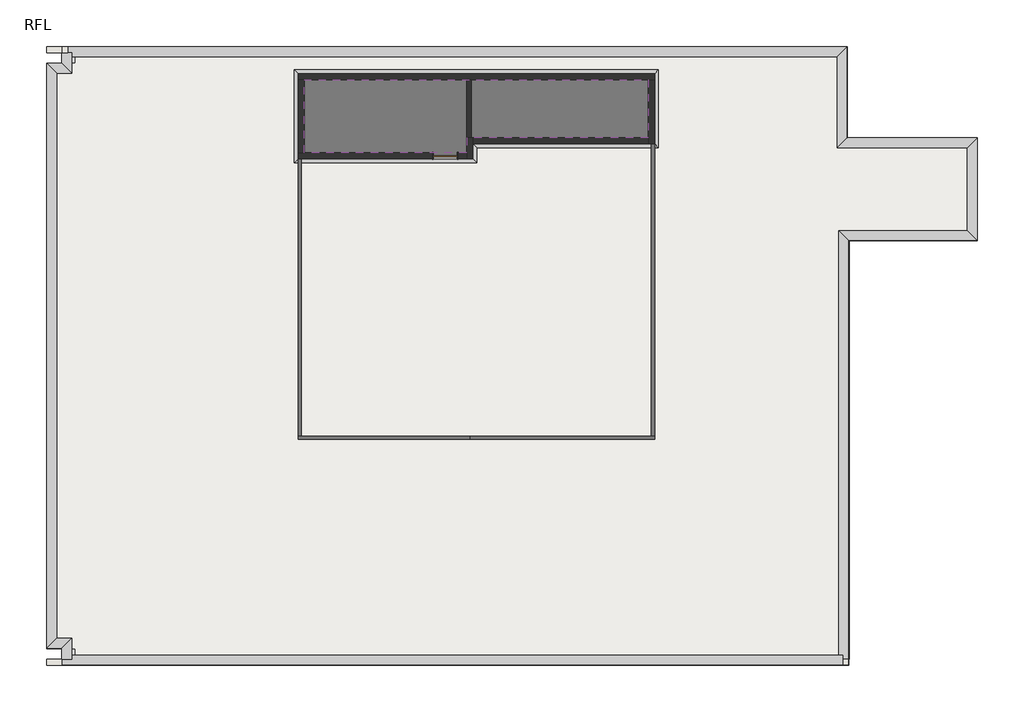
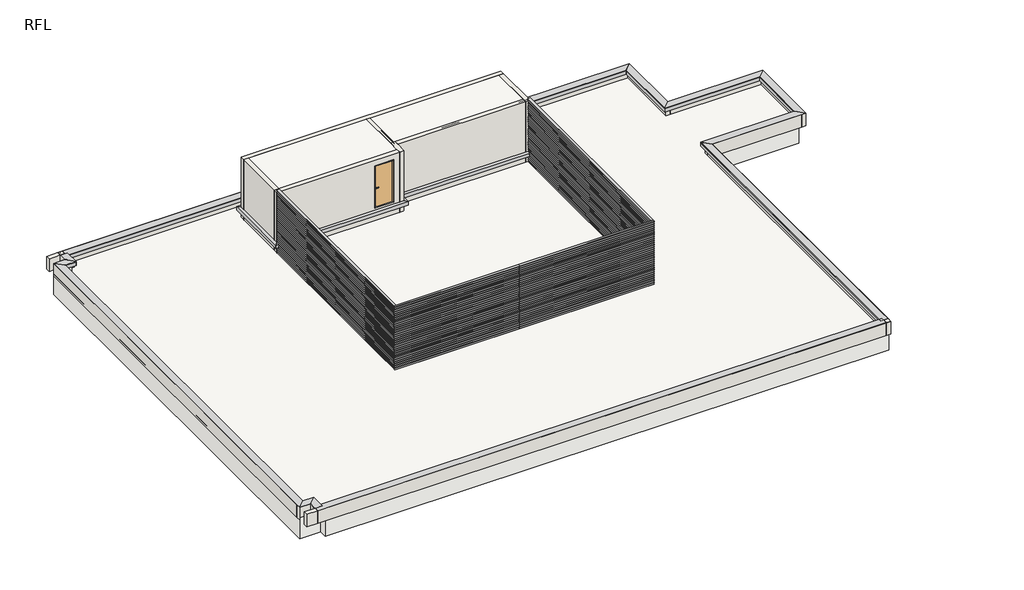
# One storey: 34 proxies, 21 walls, 2 slabs, 1 door.
"""IFC4 building model written with IfcOpenShell, lengths in millimetres."""

from ifc_helpers import new_model, si_unit, frame, origin, place, context, project, spatial, polyline, outline, extrude, faceted_brep, transform, mapped, element, save
from components import generic_models_eebe7cf6, generic_models_b61f9f31, w800h2000_a5e513ef

model = new_model("IFC4")

# Units and contexts
model_context = context("Model", 3, world=origin())
ifc_project = project(units=[si_unit("LENGTHUNIT", "METRE", prefix="MILLI")], contexts=[model_context])

# Site, building, storey
site = spatial("IfcSite", under=ifc_project)
building = spatial("IfcBuilding", under=site)
storey = spatial("IfcBuildingStorey", under=building, Name="RFL", Elevation=32600.0)

# Proxies
placement = place(None, origin())
element("IfcBuildingElementProxy", 1, Name="i_コア3 : i_コア", ObjectType="i_コア3 : i_コア", at=placement, inside=storey, context=model_context, shape_type="SweptSolid", body=[
    extrude(outline(polyline([(-15395.9784025, 15749.6868987), (-15395.9784025, 13149.6868987), (-20945.9784025, 13149.6868987), (-20945.9784025, 15749.6868987), (-15395.9784025, 15749.6868987)])), frame((0.0, 0.0, 32600.0), z_axis=(0.0, 0.0, 1.0), x_axis=(1.0, 0.0, 0.0)), (0.0, 0.0, 1.0), 3000.0),
])
element("IfcBuildingElementProxy", 2, Name="i_コア4 : i_コア", ObjectType="i_コア4 : i_コア", at=placement, inside=storey, context=model_context, shape_type="SweptSolid", body=[
    extrude(outline(polyline([(-9395.9784025, 15749.6868987), (-9395.9784025, 13649.6868987), (-15395.9784025, 13649.6868987), (-15395.9784025, 15749.6868987), (-9395.9784025, 15749.6868987)])), frame((0.0, 0.0, 32600.0), z_axis=(0.0, 0.0, 1.0), x_axis=(1.0, 0.0, 0.0)), (0.0, 0.0, 1.0), 3000.0),
])
element("IfcBuildingElementProxy", 3, Name="Reveals", at=placement, inside=storey, context=model_context, shape_type="Brep", body=[
    faceted_brep([(-3275.9784025, 16419.6868987, 33170.0), (-3275.9784025, 16419.6868987, 33200.0), (-2945.9784025, 16749.6868987, 33200.0), (-3275.9784025, 13419.6868987, 33170.0), (-2945.9784025, 13749.6868987, 33200.0), (-3275.9784025, 13419.6868987, 33200.0)], [[[0, 1, 2]], [[3, 4, 5]], [[1, 0, 3, 5]], [[2, 1, 5, 4]], [[0, 2, 4, 3]]]),
])
element("IfcBuildingElementProxy", 4, Name="Wall Sweeps", at=placement, inside=storey, context=model_context, shape_type="Brep", body=[
    faceted_brep([(-3275.9784025, 16419.6868987, 33010.0), (-3275.9784025, 16419.6868987, 33170.0), (-2945.9784025, 16749.6868987, 33200.0), (-3145.9784025, 16549.6868987, 33010.0), (-3275.9784025, 13419.6868987, 33010.0), (-3145.9784025, 13549.6868987, 33010.0), (-2945.9784025, 13749.6868987, 33200.0), (-3275.9784025, 13419.6868987, 33170.0)], [[[0, 1, 2, 3]], [[4, 5, 6, 7]], [[1, 0, 4, 7]], [[2, 1, 7, 6]], [[3, 2, 6, 5]], [[0, 3, 5, 4]]]),
])
element("IfcBuildingElementProxy", 5, Name="Reveals", at=placement, inside=storey, context=model_context, shape_type="Brep", body=[
    faceted_brep([(-3275.9784025, 13419.6868987, 33170.0), (-3275.9784025, 13419.6868987, 33200.0), (-2945.9784025, 13749.6868987, 33200.0), (1024.0215975, 13419.6868987, 33170.0), (1354.0215975, 13749.6868987, 33200.0), (1024.0215975, 13419.6868987, 33200.0)], [[[0, 1, 2]], [[3, 4, 5]], [[1, 0, 3, 5]], [[2, 1, 5, 4]], [[0, 2, 4, 3]]]),
])
element("IfcBuildingElementProxy", 6, Name="Wall Sweeps", at=placement, inside=storey, context=model_context, shape_type="Brep", body=[
    faceted_brep([(-3275.9784025, 13419.6868987, 33010.0), (-3275.9784025, 13419.6868987, 33170.0), (-2945.9784025, 13749.6868987, 33200.0), (-3145.9784025, 13549.6868987, 33010.0), (1024.0215975, 13419.6868987, 33010.0), (1154.0215975, 13549.6868987, 33010.0), (1354.0215975, 13749.6868987, 33200.0), (1024.0215975, 13419.6868987, 33170.0)], [[[0, 1, 2, 3]], [[4, 5, 6, 7]], [[1, 0, 4, 7]], [[2, 1, 7, 6]], [[3, 2, 6, 5]], [[0, 3, 5, 4]]]),
])
element("IfcBuildingElementProxy", 7, Name="Reveals", at=placement, inside=storey, context=model_context, shape_type="Brep", body=[
    faceted_brep([(1024.0215975, 13419.6868987, 33170.0), (1024.0215975, 13419.6868987, 33200.0), (1354.0215975, 13749.6868987, 33200.0), (1024.0215975, 10679.6868987, 33170.0), (1354.0215975, 10349.6868987, 33200.0), (1024.0215975, 10679.6868987, 33200.0)], [[[0, 1, 2]], [[3, 4, 5]], [[1, 0, 3, 5]], [[2, 1, 5, 4]], [[0, 2, 4, 3]]]),
])
element("IfcBuildingElementProxy", 8, Name="Wall Sweeps", at=placement, inside=storey, context=model_context, shape_type="Brep", body=[
    faceted_brep([(1024.0215975, 13419.6868987, 33010.0), (1024.0215975, 13419.6868987, 33170.0), (1354.0215975, 13749.6868987, 33200.0), (1154.0215975, 13549.6868987, 33010.0), (1024.0215975, 10679.6868987, 33010.0), (1154.0215975, 10549.6868987, 33010.0), (1354.0215975, 10349.6868987, 33200.0), (1024.0215975, 10679.6868987, 33170.0)], [[[0, 1, 2, 3]], [[4, 5, 6, 7]], [[1, 0, 4, 7]], [[2, 1, 7, 6]], [[3, 2, 6, 5]], [[0, 3, 5, 4]]]),
])
element("IfcBuildingElementProxy", 9, Name="Reveals", at=placement, inside=storey, context=model_context, shape_type="Brep", body=[
    faceted_brep([(1024.0215975, 10679.6868987, 33170.0), (1024.0215975, 10679.6868987, 33200.0), (1354.0215975, 10349.6868987, 33200.0), (-3225.9784025, 10679.6868987, 33170.0), (-2895.9784025, 10349.6868987, 33200.0), (-3225.9784025, 10679.6868987, 33200.0)], [[[0, 1, 2]], [[3, 4, 5]], [[1, 0, 3, 5]], [[2, 1, 5, 4]], [[0, 2, 4, 3]]]),
])
element("IfcBuildingElementProxy", 10, Name="Wall Sweeps", at=placement, inside=storey, context=model_context, shape_type="Brep", body=[
    faceted_brep([(1024.0215975, 10679.6868987, 33010.0), (1024.0215975, 10679.6868987, 33170.0), (1354.0215975, 10349.6868987, 33200.0), (1154.0215975, 10549.6868987, 33010.0), (-3225.9784025, 10679.6868987, 33010.0), (-3095.9784025, 10549.6868987, 33010.0), (-2895.9784025, 10349.6868987, 33200.0), (-3225.9784025, 10679.6868987, 33170.0)], [[[0, 1, 2, 3]], [[4, 5, 6, 7]], [[1, 0, 4, 7]], [[2, 1, 7, 6]], [[3, 2, 6, 5]], [[0, 3, 5, 4]]]),
])
element("IfcBuildingElementProxy", 11, Name="Reveals", at=placement, inside=storey, context=model_context, shape_type="Brep", body=[
    faceted_brep([(-3225.9784025, 10679.6868987, 33170.0), (-3225.9784025, 10679.6868987, 33200.0), (-2895.9784025, 10349.6868987, 33200.0), (-3225.9784025, -3450.3131013, 33170.0), (-2895.9784025, -3450.3131013, 33200.0), (-3225.9784025, -3450.3131013, 33200.0)], [[[0, 1, 2]], [[3, 4, 5]], [[1, 0, 3, 5]], [[2, 1, 5, 4]], [[0, 2, 4, 3]]]),
])
element("IfcBuildingElementProxy", 12, Name="Wall Sweeps", at=placement, inside=storey, context=model_context, shape_type="Brep", body=[
    faceted_brep([(-3225.9784025, 10679.6868987, 33010.0), (-3225.9784025, 10679.6868987, 33170.0), (-2895.9784025, 10349.6868987, 33200.0), (-3095.9784025, 10549.6868987, 33010.0), (-3225.9784025, -3320.3131013, 33010.0), (-3095.9784025, -3450.3131013, 33010.0), (-2895.9784025, -3650.3131013, 33200.0), (-3225.9784025, -3320.3131013, 33170.0), (-2895.9784025, -3450.3131013, 33200.0)], [[[0, 1, 2, 3]], [[4, 5, 6, 7]], [[1, 0, 4, 7]], [[2, 1, 7, 6, 8]], [[3, 2, 8, 6, 5]], [[0, 3, 5, 4]]]),
])
element("IfcBuildingElementProxy", 13, Name="Reveals", at=placement, inside=storey, context=model_context, shape_type="SweptSolid", body=[
    extrude(outline(polyline([(-3320.3131013, 33170.0), (-3650.3131013, 33200.0), (-3320.3131013, 33200.0), (-3320.3131013, 33170.0)])), frame((-28845.9784025, 0.0, 0.0), z_axis=(1.0, 0.0, 0.0), x_axis=(0.0, 1.0, 0.0)), (0.0, 0.0, 1.0), 25750.0),
])
element("IfcBuildingElementProxy", 14, Name="Wall Sweeps", at=placement, inside=storey, context=model_context, shape_type="Brep", body=[
    faceted_brep([(-3225.9784025, -3320.3131013, 33010.0), (-3225.9784025, -3320.3131013, 33170.0), (-2895.9784025, -3650.3131013, 33200.0), (-3095.9784025, -3450.3131013, 33010.0), (-28515.9784025, -3320.3131013, 33010.0), (-28645.9784025, -3450.3131013, 33010.0), (-28845.9784025, -3650.3131013, 33200.0), (-28515.9784025, -3320.3131013, 33170.0)], [[[0, 1, 2, 3]], [[4, 5, 6, 7]], [[1, 0, 4, 7]], [[2, 1, 7, 6]], [[3, 2, 6, 5]], [[0, 3, 5, 4]]]),
])
element("IfcBuildingElementProxy", 15, Name="Reveals", at=placement, inside=storey, context=model_context, shape_type="Brep", body=[
    faceted_brep([(-28515.9784025, -3450.3131013, 33170.0), (-28515.9784025, -3450.3131013, 33200.0), (-28845.9784025, -3450.3131013, 33200.0), (-28515.9784025, -2765.3131013, 33170.0), (-28845.9784025, -3095.3131013, 33200.0), (-28515.9784025, -2765.3131013, 33200.0)], [[[0, 1, 2]], [[3, 4, 5]], [[1, 0, 3, 5]], [[2, 1, 5, 4]], [[0, 2, 4, 3]]]),
])
element("IfcBuildingElementProxy", 16, Name="Wall Sweeps", at=placement, inside=storey, context=model_context, shape_type="Brep", body=[
    faceted_brep([(-28515.9784025, -3320.3131013, 33010.0), (-28515.9784025, -3320.3131013, 33170.0), (-28845.9784025, -3650.3131013, 33200.0), (-28645.9784025, -3450.3131013, 33010.0), (-28515.9784025, -2765.3131013, 33010.0), (-28645.9784025, -2895.3131013, 33010.0), (-28845.9784025, -3095.3131013, 33200.0), (-28515.9784025, -2765.3131013, 33170.0)], [[[0, 1, 2, 3]], [[4, 5, 6, 7]], [[1, 0, 4, 7]], [[2, 1, 7, 6]], [[3, 2, 6, 5]], [[0, 3, 5, 4]]]),
])
element("IfcBuildingElementProxy", 17, Name="Reveals", at=placement, inside=storey, context=model_context, shape_type="Brep", body=[
    faceted_brep([(-28515.9784025, -2765.3131013, 33170.0), (-28515.9784025, -2765.3131013, 33200.0), (-28845.9784025, -3095.3131013, 33200.0), (-29015.9784025, -2765.3131013, 33170.0), (-29345.9784025, -3095.3131013, 33200.0), (-29015.9784025, -2765.3131013, 33200.0)], [[[0, 1, 2]], [[3, 4, 5]], [[1, 0, 3, 5]], [[2, 1, 5, 4]], [[0, 2, 4, 3]]]),
])
element("IfcBuildingElementProxy", 18, Name="Wall Sweeps", at=placement, inside=storey, context=model_context, shape_type="Brep", body=[
    faceted_brep([(-28515.9784025, -2765.3131013, 33010.0), (-28515.9784025, -2765.3131013, 33170.0), (-28845.9784025, -3095.3131013, 33200.0), (-28645.9784025, -2895.3131013, 33010.0), (-29015.9784025, -2765.3131013, 33010.0), (-29145.9784025, -2895.3131013, 33010.0), (-29345.9784025, -3095.3131013, 33200.0), (-29015.9784025, -2765.3131013, 33170.0)], [[[0, 1, 2, 3]], [[4, 5, 6, 7]], [[1, 0, 4, 7]], [[2, 1, 7, 6]], [[3, 2, 6, 5]], [[0, 3, 5, 4]]]),
])
element("IfcBuildingElementProxy", 19, Name="Reveals", at=placement, inside=storey, context=model_context, shape_type="Brep", body=[
    faceted_brep([(-29015.9784025, -2765.3131013, 33170.0), (-29015.9784025, -2765.3131013, 33200.0), (-29345.9784025, -3095.3131013, 33200.0), (-29015.9784025, 15869.6868987, 33170.0), (-29345.9784025, 16199.6868987, 33200.0), (-29015.9784025, 15869.6868987, 33200.0)], [[[0, 1, 2]], [[3, 4, 5]], [[1, 0, 3, 5]], [[2, 1, 5, 4]], [[0, 2, 4, 3]]]),
])
element("IfcBuildingElementProxy", 20, Name="Wall Sweeps", at=placement, inside=storey, context=model_context, shape_type="Brep", body=[
    faceted_brep([(-29015.9784025, -2765.3131013, 33010.0), (-29015.9784025, -2765.3131013, 33170.0), (-29345.9784025, -3095.3131013, 33200.0), (-29145.9784025, -2895.3131013, 33010.0), (-29015.9784025, 15869.6868987, 33010.0), (-29145.9784025, 15999.6868987, 33010.0), (-29345.9784025, 16199.6868987, 33200.0), (-29015.9784025, 15869.6868987, 33170.0)], [[[0, 1, 2, 3]], [[4, 5, 6, 7]], [[1, 0, 4, 7]], [[2, 1, 7, 6]], [[3, 2, 6, 5]], [[0, 3, 5, 4]]]),
])
element("IfcBuildingElementProxy", 21, Name="Reveals", at=placement, inside=storey, context=model_context, shape_type="Brep", body=[
    faceted_brep([(-29015.9784025, 15869.6868987, 33170.0), (-29015.9784025, 15869.6868987, 33200.0), (-29345.9784025, 16199.6868987, 33200.0), (-28515.9784025, 15869.6868987, 33170.0), (-28845.9784025, 16199.6868987, 33200.0), (-28515.9784025, 15869.6868987, 33200.0)], [[[0, 1, 2]], [[3, 4, 5]], [[1, 0, 3, 5]], [[2, 1, 5, 4]], [[0, 2, 4, 3]]]),
])
element("IfcBuildingElementProxy", 22, Name="Wall Sweeps", at=placement, inside=storey, context=model_context, shape_type="Brep", body=[
    faceted_brep([(-29015.9784025, 15869.6868987, 33010.0), (-29015.9784025, 15869.6868987, 33170.0), (-29345.9784025, 16199.6868987, 33200.0), (-29145.9784025, 15999.6868987, 33010.0), (-28515.9784025, 15869.6868987, 33010.0), (-28645.9784025, 15999.6868987, 33010.0), (-28845.9784025, 16199.6868987, 33200.0), (-28515.9784025, 15869.6868987, 33170.0)], [[[0, 1, 2, 3]], [[4, 5, 6, 7]], [[1, 0, 4, 7]], [[2, 1, 7, 6]], [[3, 2, 6, 5]], [[0, 3, 5, 4]]]),
])
element("IfcBuildingElementProxy", 23, Name="Reveals", at=placement, inside=storey, context=model_context, shape_type="Brep", body=[
    faceted_brep([(-28515.9784025, 15869.6868987, 33170.0), (-28515.9784025, 15869.6868987, 33200.0), (-28845.9784025, 16199.6868987, 33200.0), (-28515.9784025, 16549.6868987, 33170.0), (-28845.9784025, 16549.6868987, 33200.0), (-28515.9784025, 16549.6868987, 33200.0)], [[[0, 1, 2]], [[3, 4, 5]], [[1, 0, 3, 5]], [[2, 1, 5, 4]], [[0, 2, 4, 3]]]),
])
element("IfcBuildingElementProxy", 24, Name="Wall Sweeps", at=placement, inside=storey, context=model_context, shape_type="Brep", body=[
    faceted_brep([(-28515.9784025, 15869.6868987, 33010.0), (-28515.9784025, 15869.6868987, 33170.0), (-28845.9784025, 16199.6868987, 33200.0), (-28645.9784025, 15999.6868987, 33010.0), (-28515.9784025, 16419.6868987, 33010.0), (-28645.9784025, 16549.6868987, 33010.0), (-28845.9784025, 16749.6868987, 33200.0), (-28515.9784025, 16419.6868987, 33170.0), (-28845.9784025, 16549.6868987, 33200.0)], [[[0, 1, 2, 3]], [[4, 5, 6, 7]], [[1, 0, 4, 7]], [[2, 1, 7, 6, 8]], [[3, 2, 8, 6, 5]], [[0, 3, 5, 4]]]),
])
element("IfcBuildingElementProxy", 25, Name="Reveals", at=placement, inside=storey, context=model_context, shape_type="Brep", body=[
    faceted_brep([(-28645.9784025, 16419.6868987, 33170.0), (-28645.9784025, 16419.6868987, 33200.0), (-28645.9784025, 16749.6868987, 33200.0), (-3275.9784025, 16419.6868987, 33170.0), (-2945.9784025, 16749.6868987, 33200.0), (-3275.9784025, 16419.6868987, 33200.0)], [[[0, 1, 2]], [[3, 4, 5]], [[1, 0, 3, 5]], [[2, 1, 5, 4]], [[0, 2, 4, 3]]]),
])
element("IfcBuildingElementProxy", 26, Name="Wall Sweeps", at=placement, inside=storey, context=model_context, shape_type="Brep", body=[
    faceted_brep([(-28515.9784025, 16419.6868987, 33010.0), (-28515.9784025, 16419.6868987, 33170.0), (-28845.9784025, 16749.6868987, 33200.0), (-28645.9784025, 16549.6868987, 33010.0), (-3275.9784025, 16419.6868987, 33010.0), (-3145.9784025, 16549.6868987, 33010.0), (-2945.9784025, 16749.6868987, 33200.0), (-3275.9784025, 16419.6868987, 33170.0)], [[[0, 1, 2, 3]], [[4, 5, 6, 7]], [[1, 0, 4, 7]], [[2, 1, 7, 6]], [[3, 2, 6, 5]], [[0, 3, 5, 4]]]),
])
element("IfcBuildingElementProxy", 27, Name="Wall Sweeps", at=placement, inside=storey, context=model_context, shape_type="Brep", body=[
    faceted_brep([(-21175.9784025, 15979.6868987, 33025.0), (-21045.9784025, 15849.6868987, 33025.0), (-21045.9784025, 15849.6868987, 33200.0), (-21175.9784025, 15979.6868987, 33185.0), (-9165.9784025, 15979.6868987, 33025.0), (-9165.9784025, 15979.6868987, 33185.0), (-9295.9784025, 15849.6868987, 33200.0), (-9295.9784025, 15849.6868987, 33025.0)], [[[0, 1, 2, 3]], [[4, 5, 6, 7]], [[0, 3, 5, 4]], [[3, 2, 6, 5]], [[2, 1, 7, 6]], [[1, 0, 4, 7]]]),
])
element("IfcBuildingElementProxy", 28, Name="Wall Sweeps", at=placement, inside=storey, context=model_context, shape_type="Brep", body=[
    faceted_brep([(-9165.9784025, 15979.6868987, 33025.0), (-9295.9784025, 15849.6868987, 33025.0), (-9295.9784025, 15849.6868987, 33200.0), (-9165.9784025, 15979.6868987, 33185.0), (-9165.9784025, 13419.6868987, 33025.0), (-9165.9784025, 13419.6868987, 33185.0), (-9295.9784025, 13549.6868987, 33200.0), (-9295.9784025, 13549.6868987, 33025.0)], [[[0, 1, 2, 3]], [[4, 5, 6, 7]], [[0, 3, 5, 4]], [[3, 2, 6, 5]], [[2, 1, 7, 6]], [[1, 0, 4, 7]]]),
])
element("IfcBuildingElementProxy", 29, Name="Wall Sweeps", at=placement, inside=storey, context=model_context, shape_type="Brep", body=[
    faceted_brep([(-9165.9784025, 13419.6868987, 33025.0), (-9295.9784025, 13549.6868987, 33025.0), (-9295.9784025, 13549.6868987, 33200.0), (-9165.9784025, 13419.6868987, 33185.0), (-15165.9784025, 13419.6868987, 33025.0), (-15165.9784025, 13419.6868987, 33185.0), (-15295.9784025, 13549.6868987, 33200.0), (-15295.9784025, 13549.6868987, 33025.0)], [[[0, 1, 2, 3]], [[4, 5, 6, 7]], [[0, 3, 5, 4]], [[3, 2, 6, 5]], [[2, 1, 7, 6]], [[1, 0, 4, 7]]]),
])
element("IfcBuildingElementProxy", 30, Name="Wall Sweeps", at=placement, inside=storey, context=model_context, shape_type="Brep", body=[
    faceted_brep([(-15165.9784025, 13419.6868987, 33025.0), (-15295.9784025, 13549.6868987, 33025.0), (-15295.9784025, 13549.6868987, 33200.0), (-15165.9784025, 13419.6868987, 33185.0), (-15165.9784025, 12919.6868987, 33025.0), (-15165.9784025, 12919.6868987, 33185.0), (-15295.9784025, 13049.6868987, 33200.0), (-15295.9784025, 13049.6868987, 33025.0)], [[[0, 1, 2, 3]], [[4, 5, 6, 7]], [[0, 3, 5, 4]], [[3, 2, 6, 5]], [[2, 1, 7, 6]], [[1, 0, 4, 7]]]),
])
element("IfcBuildingElementProxy", 31, Name="Wall Sweeps", at=placement, inside=storey, context=model_context, shape_type="Brep", body=[
    faceted_brep([(-15165.9784025, 12919.6868987, 33025.0), (-15295.9784025, 13049.6868987, 33025.0), (-15295.9784025, 13049.6868987, 33200.0), (-15165.9784025, 12919.6868987, 33185.0), (-21175.9784025, 12919.6868987, 33025.0), (-21175.9784025, 12919.6868987, 33185.0), (-21045.9784025, 13049.6868987, 33200.0), (-21045.9784025, 13049.6868987, 33025.0)], [[[0, 1, 2, 3]], [[4, 5, 6, 7]], [[0, 3, 5, 4]], [[3, 2, 6, 5]], [[2, 1, 7, 6]], [[1, 0, 4, 7]]]),
])
element("IfcBuildingElementProxy", 32, Name="Wall Sweeps", at=placement, inside=storey, context=model_context, shape_type="Brep", body=[
    faceted_brep([(-21175.9784025, 12919.6868987, 33025.0), (-21045.9784025, 13049.6868987, 33025.0), (-21045.9784025, 13049.6868987, 33200.0), (-21175.9784025, 12919.6868987, 33185.0), (-21175.9784025, 15979.6868987, 33025.0), (-21175.9784025, 15979.6868987, 33185.0), (-21045.9784025, 15849.6868987, 33200.0), (-21045.9784025, 15849.6868987, 33025.0)], [[[0, 1, 2, 3]], [[4, 5, 6, 7]], [[0, 3, 5, 4]], [[3, 2, 6, 5]], [[2, 1, 7, 6]], [[1, 0, 4, 7]]]),
])
generic_models_shape = generic_models_eebe7cf6(model_context)
element("IfcBuildingElementProxy", 33, Name="水平ルーバー（Ｌ型） : h30d100@100", ObjectType="水平ルーバー（Ｌ型） : h30d100@100", at=placement, inside=storey, context=model_context, shape_type="MappedRepresentation", body=[
    mapped(generic_models_shape, transform((-9295.9784025, 4099.6868987, 32700.0), x_axis=(0.0, 1.0000000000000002, 0.0), y_axis=(-1.0000000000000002, 0.0, 0.0), z_axis=(0.0, 0.0, 1.0))),
])
generic_models_2_shape = generic_models_b61f9f31(model_context)
element("IfcBuildingElementProxy", 34, Name="水平ルーバー（Ｌ型） : h30d100@100", ObjectType="水平ルーバー（Ｌ型） : h30d100@100", at=placement, inside=storey, context=model_context, shape_type="MappedRepresentation", body=[
    mapped(generic_models_2_shape, transform((-21045.9784025, 4099.6868987, 32700.0), x_axis=(0.0, 1.0000000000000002, 0.0), y_axis=(-1.0000000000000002, 0.0, 0.0), z_axis=(0.0, 0.0, 1.0))),
])

# Door
w800h2000_shape = w800h2000_a5e513ef(model_context)
element("IfcDoor", 35, ObjectType="片開き戸 : w800h2000", at=placement, inside=storey, context=model_context, shape_type="MappedRepresentation", body=[
    mapped(w800h2000_shape, transform((-16195.9784025, 13149.6868987, 33300.0), x_axis=(1.0, 0.0, 0.0), y_axis=(0.0, 1.0, 0.0), z_axis=(0.0, 0.0, 1.0))),
])

# Slabs
element("IfcSlab", 36, ObjectType="企画1000", at=placement, inside=storey, context=model_context, shape_type="SweptSolid", body=[
    extrude(outline(polyline([(-3145.9784025, 16549.6868987), (-3145.9784025, 13549.6868987), (1154.0215975, 13549.6868987), (1154.0215975, 10549.6868987), (-2870.9784025, 10549.6868987), (-2870.9784025, -3450.3131013), (-28395.9784025, -3450.3131013), (-28395.9784025, -3105.3131013), (-29345.9784025, -3105.3131013), (-29345.9784025, 16194.6868987), (-28395.9784025, 16194.6868987), (-28395.9784025, 16549.6868987), (-3145.9784025, 16549.6868987)])), frame((0.0, 0.0, 31700.0), z_axis=(0.0, 0.0, 1.0), x_axis=(1.0, 0.0, 0.0)), (0.0, 0.0, 1.0), 1000.0),
])
element("IfcSlab", 37, ObjectType="RC150", at=placement, inside=storey, context=model_context, shape_type="SweptSolid", body=[
    extrude(outline(polyline([(-9495.9784025, 15649.6868987), (-9495.9784025, 13749.6868987), (-15495.9784025, 13749.6868987), (-15495.9784025, 13249.6868987), (-20845.9784025, 13249.6868987), (-20845.9784025, 15649.6868987), (-9495.9784025, 15649.6868987)])), frame((0.0, 0.0, 35450.0), z_axis=(0.0, 0.0, 1.0), x_axis=(1.0, 0.0, 0.0)), (0.0, 0.0, 1.0), 150.0),
])

# Walls
element("IfcWall", 38, ObjectType="パラペット200 アゴ+立上", at=placement, inside=storey, context=model_context, shape_type="Brep", body=[
    faceted_brep([(-21045.9784025, 15649.6868987, 32600.0), (-20845.9784025, 15649.6868987, 32600.0), (-15495.9784025, 15649.6868987, 32600.0), (-15345.9784025, 15649.6868987, 32600.0), (-9495.9784025, 15649.6868987, 32600.0), (-9295.9784025, 15649.6868987, 32600.0), (-9295.9784025, 15649.6868987, 33025.0), (-9295.9784025, 15649.6868987, 33200.0), (-9295.9784025, 15649.6868987, 35600.0), (-9495.9784025, 15649.6868987, 35600.0), (-15345.9784025, 15649.6868987, 35600.0), (-15495.9784025, 15649.6868987, 35600.0), (-20845.9784025, 15649.6868987, 35600.0), (-21045.9784025, 15649.6868987, 35600.0), (-21045.9784025, 15649.6868987, 33200.0), (-21045.9784025, 15649.6868987, 33025.0), (-9295.9784025, 15849.6868987, 32600.0), (-21045.9784025, 15849.6868987, 32600.0), (-21045.9784025, 15849.6868987, 33025.0), (-21045.9784025, 15849.6868987, 33200.0), (-21045.9784025, 15849.6868987, 35600.0), (-9295.9784025, 15849.6868987, 35600.0), (-9295.9784025, 15849.6868987, 33200.0), (-9295.9784025, 15849.6868987, 33025.0)], [[[0, 1, 2, 3, 4, 5, 6, 7, 8, 9, 10, 11, 12, 13, 14, 15]], [[16, 17, 18, 19, 20, 21, 22, 23]], [[5, 4, 3, 2, 1, 0, 17, 16]], [[13, 12, 11, 10, 9, 8, 21, 20]], [[5, 16, 23, 22, 21, 8, 7, 6]], [[13, 20, 19, 18, 17, 0, 15, 14]]]),
])
element("IfcWall", 39, ObjectType="パラペット200 アゴ+立上", at=placement, inside=storey, context=model_context, shape_type="Brep", body=[
    faceted_brep([(-9495.9784025, 15649.6868987, 32600.0), (-9495.9784025, 13749.6868987, 32600.0), (-9495.9784025, 13549.6868987, 32600.0), (-9495.9784025, 13549.6868987, 33025.0), (-9495.9784025, 13549.6868987, 33200.0), (-9495.9784025, 13549.6868987, 35600.0), (-9495.9784025, 13749.6868987, 35600.0), (-9495.9784025, 15649.6868987, 35600.0), (-9295.9784025, 13549.6868987, 32600.0), (-9295.9784025, 15649.6868987, 32600.0), (-9295.9784025, 15649.6868987, 33025.0), (-9295.9784025, 15649.6868987, 33200.0), (-9295.9784025, 15649.6868987, 35600.0), (-9295.9784025, 13549.6868987, 35600.0), (-9295.9784025, 13549.6868987, 33200.0), (-9295.9784025, 13549.6868987, 33025.0)], [[[0, 1, 2, 3, 4, 5, 6, 7]], [[8, 9, 10, 11, 12, 13, 14, 15]], [[2, 1, 0, 9, 8]], [[7, 6, 5, 13, 12]], [[0, 7, 12, 11, 10, 9]], [[2, 8, 15, 14, 13, 5, 4, 3]]]),
])
element("IfcWall", 40, ObjectType="パラペット200 アゴ+立上", at=placement, inside=storey, context=model_context, shape_type="Brep", body=[
    faceted_brep([(-9495.9784025, 13749.6868987, 32600.0), (-15295.9784025, 13749.6868987, 32600.0), (-15295.9784025, 13749.6868987, 35600.0), (-9495.9784025, 13749.6868987, 35600.0), (-15295.9784025, 13549.6868987, 32600.0), (-9495.9784025, 13549.6868987, 32600.0), (-9495.9784025, 13549.6868987, 33025.0), (-9495.9784025, 13549.6868987, 33200.0), (-9495.9784025, 13549.6868987, 35600.0), (-15295.9784025, 13549.6868987, 35600.0), (-15295.9784025, 13549.6868987, 33200.0), (-15295.9784025, 13549.6868987, 33025.0)], [[[0, 1, 2, 3]], [[4, 5, 6, 7, 8, 9, 10, 11]], [[1, 0, 5, 4]], [[3, 2, 9, 8]], [[0, 3, 8, 7, 6, 5]], [[2, 1, 4, 11, 10, 9]]]),
])
element("IfcWall", 41, ObjectType="パラペット200 アゴ+立上", at=placement, inside=storey, context=model_context, shape_type="Brep", body=[
    faceted_brep([(-15495.9784025, 13749.6868987, 32600.0), (-15495.9784025, 13249.6868987, 32600.0), (-15495.9784025, 13049.6868987, 32600.0), (-15495.9784025, 13049.6868987, 33025.0), (-15495.9784025, 13049.6868987, 33200.0), (-15495.9784025, 13049.6868987, 35600.0), (-15495.9784025, 13249.6868987, 35600.0), (-15495.9784025, 13749.6868987, 35600.0), (-15295.9784025, 13049.6868987, 32600.0), (-15295.9784025, 13549.6868987, 32600.0), (-15295.9784025, 13749.6868987, 32600.0), (-15295.9784025, 13749.6868987, 35600.0), (-15295.9784025, 13549.6868987, 35600.0), (-15295.9784025, 13049.6868987, 35600.0), (-15295.9784025, 13049.6868987, 33200.0), (-15295.9784025, 13049.6868987, 33025.0), (-15345.9784025, 13749.6868987, 32600.0), (-15345.9784025, 13749.6868987, 35600.0)], [[[0, 1, 2, 3, 4, 5, 6, 7]], [[8, 9, 10, 11, 12, 13, 14, 15]], [[2, 1, 0, 16, 10, 9, 8]], [[7, 6, 5, 13, 12, 11, 17]], [[0, 7, 17, 11, 10, 16]], [[2, 8, 15, 14, 13, 5, 4, 3]]]),
])
element("IfcWall", 42, ObjectType="パラペット200 アゴ+立上", at=placement, inside=storey, context=model_context, shape_type="Brep", body=[
    faceted_brep([(-15495.9784025, 13249.6868987, 32600.0), (-20845.9784025, 13249.6868987, 32600.0), (-21045.9784025, 13249.6868987, 32600.0), (-21045.9784025, 13249.6868987, 33025.0), (-21045.9784025, 13249.6868987, 33200.0), (-21045.9784025, 13249.6868987, 35600.0), (-20845.9784025, 13249.6868987, 35600.0), (-15495.9784025, 13249.6868987, 35600.0), (-15770.9784025, 13249.6868987, 33300.0), (-15770.9784025, 13249.6868987, 35325.0), (-16620.9784025, 13249.6868987, 35325.0), (-16620.9784025, 13249.6868987, 33300.0), (-21045.9784025, 13049.6868987, 32600.0), (-15495.9784025, 13049.6868987, 32600.0), (-15495.9784025, 13049.6868987, 33025.0), (-15495.9784025, 13049.6868987, 33200.0), (-15495.9784025, 13049.6868987, 35600.0), (-21045.9784025, 13049.6868987, 35600.0), (-21045.9784025, 13049.6868987, 33200.0), (-21045.9784025, 13049.6868987, 33025.0), (-15770.9784025, 13049.6868987, 35325.0), (-15770.9784025, 13049.6868987, 33300.0), (-16620.9784025, 13049.6868987, 33300.0), (-16620.9784025, 13049.6868987, 35325.0)], [[[0, 1, 2, 3, 4, 5, 6, 7], [8, 9, 10, 11]], [[12, 13, 14, 15, 16, 17, 18, 19], [20, 21, 22, 23]], [[2, 1, 0, 13, 12]], [[7, 6, 5, 17, 16]], [[0, 7, 16, 15, 14, 13]], [[2, 12, 19, 18, 17, 5, 4, 3]], [[21, 20, 9, 8]], [[22, 21, 8, 11]], [[23, 22, 11, 10]], [[20, 23, 10, 9]]]),
])
element("IfcWall", 43, ObjectType="パラペット200 アゴ+立上", at=placement, inside=storey, context=model_context, shape_type="Brep", body=[
    faceted_brep([(-20845.9784025, 13249.6868987, 32600.0), (-20845.9784025, 15649.6868987, 32600.0), (-20845.9784025, 15649.6868987, 35600.0), (-20845.9784025, 13249.6868987, 35600.0), (-21045.9784025, 15649.6868987, 32600.0), (-21045.9784025, 13249.6868987, 32600.0), (-21045.9784025, 13249.6868987, 33025.0), (-21045.9784025, 13249.6868987, 33200.0), (-21045.9784025, 13249.6868987, 35600.0), (-21045.9784025, 15649.6868987, 35600.0), (-21045.9784025, 15649.6868987, 33200.0), (-21045.9784025, 15649.6868987, 33025.0)], [[[0, 1, 2, 3]], [[4, 5, 6, 7, 8, 9, 10, 11]], [[1, 0, 5, 4]], [[3, 2, 9, 8]], [[2, 1, 4, 11, 10, 9]], [[0, 3, 8, 7, 6, 5]]]),
])
element("IfcWall", 44, ObjectType="標準150", at=placement, inside=storey, context=model_context, shape_type="SweptSolid", body=[
    extrude(outline(polyline([(-15345.9784025, 15649.6868987), (-15345.9784025, 13749.6868987), (-15495.9784025, 13749.6868987), (-15495.9784025, 15649.6868987), (-15345.9784025, 15649.6868987)])), frame((0.0, 0.0, 32600.0), z_axis=(0.0, 0.0, 1.0), x_axis=(1.0, 0.0, 0.0)), (0.0, 0.0, 1.0), 3000.0),
])
element("IfcWall", 45, ObjectType="標準200", at=placement, inside=storey, context=model_context, shape_type="SweptSolid", body=[
    extrude(outline(polyline([(-28845.9784025, 16549.6868987), (-29345.9784025, 16549.6868987), (-29345.9784025, 16749.6868987), (-28845.9784025, 16749.6868987), (-28845.9784025, 16549.6868987)])), frame((0.0, 0.0, 32600.0), z_axis=(0.0, 0.0, 1.0), x_axis=(1.0, 0.0, 0.0)), (0.0, 0.0, 1.0), 600.0),
])
element("IfcWall", 46, ObjectType="パラペット200 アゴ", at=placement, inside=storey, context=model_context, shape_type="Brep", body=[
    faceted_brep([(-3145.9784025, 16549.6868987, 32600.0), (-3145.9784025, 13549.6868987, 32600.0), (-3145.9784025, 13549.6868987, 33010.0), (-3145.9784025, 16549.6868987, 33010.0), (-2945.9784025, 13549.6868987, 32600.0), (-2945.9784025, 13749.6868987, 32600.0), (-2945.9784025, 16549.6868987, 32600.0), (-2945.9784025, 16549.6868987, 33200.0), (-2945.9784025, 13749.6868987, 33200.0), (-2945.9784025, 13549.6868987, 33010.0)], [[[0, 1, 2, 3]], [[4, 5, 6, 7, 8, 9]], [[1, 0, 6, 5, 4]], [[2, 8, 7, 3]], [[7, 6, 0, 3]], [[1, 4, 9, 2]], [[8, 2, 9]]]),
])
element("IfcWall", 47, ObjectType="パラペット200 アゴ", at=placement, inside=storey, context=model_context, shape_type="Brep", body=[
    faceted_brep([(-2945.9784025, 13549.6868987, 32600.0), (1154.0215975, 13549.6868987, 32600.0), (1354.0215975, 13549.6868987, 32600.0), (1354.0215975, 13549.6868987, 33200.0), (1154.0215975, 13549.6868987, 33010.0), (-2945.9784025, 13549.6868987, 33010.0), (1354.0215975, 13749.6868987, 32600.0), (-2945.9784025, 13749.6868987, 32600.0), (-2945.9784025, 13749.6868987, 33200.0), (1354.0215975, 13749.6868987, 33200.0)], [[[0, 1, 2, 3, 4, 5]], [[6, 7, 8, 9]], [[2, 1, 0, 7, 6]], [[4, 9, 8, 5]], [[8, 7, 0, 5]], [[3, 2, 6, 9]], [[9, 4, 3]]]),
])
element("IfcWall", 48, ObjectType="パラペット200 アゴ", at=placement, inside=storey, context=model_context, shape_type="Brep", body=[
    faceted_brep([(1154.0215975, 13549.6868987, 32600.0), (1154.0215975, 10549.6868987, 32600.0), (1154.0215975, 10349.6868987, 32600.0), (1154.0215975, 10349.6868987, 33200.0), (1154.0215975, 10549.6868987, 33010.0), (1154.0215975, 13549.6868987, 33010.0), (1354.0215975, 10349.6868987, 32600.0), (1354.0215975, 13549.6868987, 32600.0), (1354.0215975, 13549.6868987, 33200.0), (1354.0215975, 10349.6868987, 33200.0)], [[[0, 1, 2, 3, 4, 5]], [[6, 7, 8, 9]], [[2, 1, 0, 7, 6]], [[4, 9, 8, 5]], [[8, 7, 0, 5]], [[3, 2, 6, 9]], [[9, 4, 3]]]),
])
element("IfcWall", 49, ObjectType="パラペット200 アゴ", at=placement, inside=storey, context=model_context, shape_type="Brep", body=[
    faceted_brep([(1154.0215975, 10549.6868987, 32600.0), (-3095.9784025, 10549.6868987, 32600.0), (-3095.9784025, 10549.6868987, 33010.0), (1154.0215975, 10549.6868987, 33010.0), (-3095.9784025, 10349.6868987, 32600.0), (-2895.9784025, 10349.6868987, 32600.0), (1154.0215975, 10349.6868987, 32600.0), (1154.0215975, 10349.6868987, 33200.0), (-2895.9784025, 10349.6868987, 33200.0), (-3095.9784025, 10349.6868987, 33010.0)], [[[0, 1, 2, 3]], [[4, 5, 6, 7, 8, 9]], [[1, 0, 6, 5, 4]], [[2, 8, 7, 3]], [[7, 6, 0, 3]], [[1, 4, 9, 2]], [[8, 2, 9]]]),
])
element("IfcWall", 50, ObjectType="パラペット200 アゴ", at=placement, inside=storey, context=model_context, shape_type="Brep", body=[
    faceted_brep([(-3095.9784025, -3450.3131013, 33200.0), (-3095.9784025, -3450.3131013, 33181.8181818), (-3095.9784025, -3650.3131013, 33200.0), (-3095.9784025, 10349.6868987, 32600.0), (-3095.9784025, -3450.3131013, 32600.0), (-3095.9784025, -3650.3131013, 32600.0), (-3095.9784025, -3450.3131013, 33010.0), (-3095.9784025, 10349.6868987, 33010.0), (-2895.9784025, -3650.3131013, 32600.0), (-2895.9784025, -3450.3131013, 32600.0), (-2895.9784025, 10349.6868987, 32600.0), (-2895.9784025, 10349.6868987, 33200.0), (-2895.9784025, -3450.3131013, 33200.0), (-2895.9784025, -3650.3131013, 33200.0), (-2895.9784025, -3650.3131013, 33200.0)], [[[0, 1, 2]], [[3, 4, 5, 2, 6, 7]], [[8, 9, 10, 11, 12, 13]], [[5, 4, 3, 10, 9, 8]], [[12, 0, 2, 13]], [[1, 0, 12]], [[14, 1, 12]], [[6, 14, 12, 11, 7]], [[11, 10, 3, 7]], [[2, 5, 8, 13]], [[14, 2, 1]], [[14, 6, 2]]]),
])
element("IfcWall", 51, ObjectType="パラペット200 アゴ", at=placement, inside=storey, context=model_context, shape_type="Brep", body=[
    faceted_brep([(-3095.9784025, -3450.3131013, 32600.0), (-28645.9784025, -3450.3131013, 32600.0), (-28845.9784025, -3450.3131013, 32600.0), (-28845.9784025, -3450.3131013, 33181.8181818), (-28826.8396465, -3450.3131013, 33181.8181818), (-28645.9784025, -3450.3131013, 33010.0), (-3095.9784025, -3450.3131013, 33010.0), (-28845.9784025, -3650.3131013, 32600.0), (-3095.9784025, -3650.3131013, 32600.0), (-3095.9784025, -3650.3131013, 33200.0), (-28845.9784025, -3650.3131013, 33200.0)], [[[0, 1, 2, 3, 4, 5, 6]], [[7, 8, 9, 10]], [[2, 1, 0, 8, 7]], [[3, 10, 4]], [[5, 10, 9, 6]], [[9, 8, 0, 6]], [[10, 5, 4]], [[2, 7, 10, 3]]]),
])
element("IfcWall", 52, ObjectType="パラペット200 アゴ", at=placement, inside=storey, context=model_context, shape_type="Brep", body=[
    faceted_brep([(-28645.9784025, -3450.3131013, 32600.0), (-28645.9784025, -2895.3131013, 32600.0), (-28645.9784025, -2895.3131013, 33010.0), (-28645.9784025, -3450.3131013, 33010.0), (-28845.9784025, -2895.3131013, 32600.0), (-28845.9784025, -3095.3131013, 32600.0), (-28845.9784025, -3450.3131013, 32600.0), (-28845.9784025, -3450.3131013, 33181.8181818), (-28845.9784025, -3320.3131013, 33170.0), (-28845.9784025, -3320.3131013, 33200.0), (-28845.9784025, -3095.3131013, 33200.0), (-28845.9784025, -2895.3131013, 33010.0), (-28814.3994551, -3320.3131013, 33170.0), (-28826.8396465, -3450.3131013, 33181.8181818)], [[[0, 1, 2, 3]], [[4, 5, 6, 7, 8, 9, 10, 11]], [[1, 0, 6, 5, 4]], [[3, 2, 10, 9, 12, 13]], [[1, 4, 11, 2]], [[10, 2, 11]], [[6, 0, 3, 13, 7]], [[8, 12, 9]], [[12, 8, 7, 13]]]),
])
element("IfcWall", 53, ObjectType="パラペット200 アゴ", at=placement, inside=storey, context=model_context, shape_type="Brep", body=[
    faceted_brep([(-28845.9784025, -2895.3131013, 32600.0), (-29145.9784025, -2895.3131013, 32600.0), (-29345.9784025, -2895.3131013, 32600.0), (-29345.9784025, -2895.3131013, 33200.0), (-29145.9784025, -2895.3131013, 33010.0), (-28845.9784025, -2895.3131013, 33010.0), (-29345.9784025, -3095.3131013, 32600.0), (-28845.9784025, -3095.3131013, 32600.0), (-28845.9784025, -3095.3131013, 33200.0), (-29345.9784025, -3095.3131013, 33200.0)], [[[0, 1, 2, 3, 4, 5]], [[6, 7, 8, 9]], [[2, 1, 0, 7, 6]], [[4, 9, 8, 5]], [[8, 7, 0, 5]], [[3, 2, 6, 9]], [[9, 4, 3]]]),
])
element("IfcWall", 54, ObjectType="パラペット200 アゴ", at=placement, inside=storey, context=model_context, shape_type="Brep", body=[
    faceted_brep([(-29145.9784025, -2895.3131013, 32600.0), (-29145.9784025, 15999.6868987, 32600.0), (-29145.9784025, 16199.6868987, 32600.0), (-29145.9784025, 16199.6868987, 33200.0), (-29145.9784025, 15999.6868987, 33010.0), (-29145.9784025, -2895.3131013, 33010.0), (-29345.9784025, 16199.6868987, 32600.0), (-29345.9784025, -2895.3131013, 32600.0), (-29345.9784025, -2895.3131013, 33200.0), (-29345.9784025, 16199.6868987, 33200.0)], [[[0, 1, 2, 3, 4, 5]], [[6, 7, 8, 9]], [[2, 1, 0, 7, 6]], [[4, 9, 8, 5]], [[8, 7, 0, 5]], [[3, 2, 6, 9]], [[9, 4, 3]]]),
])
element("IfcWall", 55, ObjectType="パラペット200 アゴ", at=placement, inside=storey, context=model_context, shape_type="SweptSolid", body=[
    extrude(outline(polyline([(16199.6868987, 33200.0), (16199.6868987, 32600.0), (15999.6868987, 32600.0), (15999.6868987, 33010.0), (16199.6868987, 33200.0)])), frame((-29145.9784025, 0.0, 0.0), z_axis=(1.0, 0.0, 0.0), x_axis=(0.0, 1.0, 0.0)), (0.0, 0.0, 1.0), 300.0),
])
element("IfcWall", 56, ObjectType="パラペット200 アゴ", at=placement, inside=storey, context=model_context, shape_type="Brep", body=[
    faceted_brep([(-28645.9784025, 16549.6868987, 33200.0), (-28645.9784025, 16549.6868987, 33181.8181818), (-28645.9784025, 16749.6868987, 33200.0), (-28645.9784025, 15999.6868987, 32600.0), (-28645.9784025, 16549.6868987, 32600.0), (-28645.9784025, 16749.6868987, 32600.0), (-28645.9784025, 16549.6868987, 33010.0), (-28645.9784025, 15999.6868987, 33010.0), (-28845.9784025, 16749.6868987, 32600.0), (-28845.9784025, 16549.6868987, 32600.0), (-28845.9784025, 16199.6868987, 32600.0), (-28845.9784025, 15999.6868987, 32600.0), (-28845.9784025, 15999.6868987, 33010.0), (-28845.9784025, 16199.6868987, 33200.0), (-28845.9784025, 16549.6868987, 33200.0), (-28845.9784025, 16749.6868987, 33200.0), (-28845.9784025, 16749.6868987, 33200.0)], [[[0, 1, 2]], [[3, 4, 5, 2, 6, 7]], [[8, 9, 10, 11, 12, 13, 14, 15]], [[5, 4, 3, 11, 10, 9, 8]], [[14, 0, 2, 15]], [[1, 0, 14]], [[16, 1, 14]], [[13, 7, 6, 16, 14]], [[11, 3, 7, 12]], [[7, 13, 12]], [[16, 2, 1]], [[16, 6, 2]], [[2, 5, 8, 15]]]),
])
element("IfcWall", 57, ObjectType="標準200", at=placement, inside=storey, context=model_context, shape_type="SweptSolid", body=[
    extrude(outline(polyline([(-29345.9784025, -3450.3131013), (-28845.9784025, -3450.3131013), (-28845.9784025, -3650.3131013), (-29345.9784025, -3650.3131013), (-29345.9784025, -3450.3131013)])), frame((0.0, 0.0, 32600.0), z_axis=(0.0, 0.0, 1.0), x_axis=(1.0, 0.0, 0.0)), (0.0, 0.0, 1.0), 600.0),
])
element("IfcWall", 58, ObjectType="パラペット200 アゴ", at=placement, inside=storey, context=model_context, shape_type="Brep", body=[
    faceted_brep([(-28645.9784025, 16549.6868987, 32600.0), (-3145.9784025, 16549.6868987, 32600.0), (-2945.9784025, 16549.6868987, 32600.0), (-2945.9784025, 16549.6868987, 33200.0), (-3145.9784025, 16549.6868987, 33010.0), (-28645.9784025, 16549.6868987, 33010.0), (-2945.9784025, 16749.6868987, 32600.0), (-28645.9784025, 16749.6868987, 32600.0), (-28645.9784025, 16749.6868987, 33200.0), (-2945.9784025, 16749.6868987, 33200.0)], [[[0, 1, 2, 3, 4, 5]], [[6, 7, 8, 9]], [[2, 1, 0, 7, 6]], [[3, 2, 6, 9]], [[9, 4, 3]], [[4, 9, 8, 5]], [[8, 7, 0, 5]]]),
])

save(model, "model.ifc")
